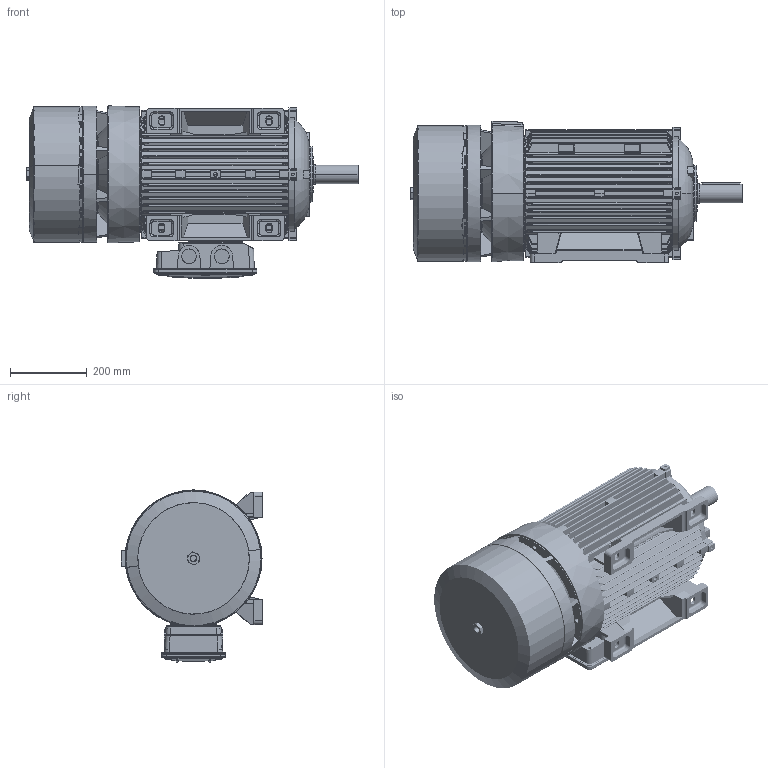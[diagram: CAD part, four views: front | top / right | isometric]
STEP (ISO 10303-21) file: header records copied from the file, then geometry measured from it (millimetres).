
FILE_DESCRIPTION (( 'STEP AP214' ), '1' );
FILE_NAME ('M02MA0011.STEP', '2019-05-07T06:55:44', ( '' ), ( '' ), 'SwSTEP 2.0', 'SolidWorks 2018', '' );
FILE_SCHEMA (( 'AUTOMOTIVE_DESIGN' ));
Length unit declared in the file: millimetre
Products named in the file (15): M02MA0011; Scatola Morsettiera Doppia BA 160 - 180 - 200 - Completa; Guarnizione Basetta BA 160-180 - 200 - D6BB0000; Vite Testa Bombata M6x20; Guarnizione Coperchio Sc. Mor. BA 160-180-200 - D6BA0100; Coperchio Scatola Morsettiera Doppia BA 160 - 180 - 200 - D6A60099; Scatola morsettiera 160; Chiavetta 180; Albero BA-CF 180 L; Scudo Lato Comando B3 BA 180; Vite a Testa Esagona 20 MB gr. 132-200 - DGAS0094; Cuffia serie BA 180-200; Convogliatore con pista di attrito BA 180-200 P2 - D7AR0298; Scudo Lato Freno BA 180-200 P1 - D7AG0198; Carcassa 180 B3
Assembly tree (19 placements, depth 3):
  M02MA0011
    Carcassa 180 B3
    Scudo Lato Freno BA 180-200 P1 - D7AG0198
    Convogliatore con pista di attrito BA 180-200 P2 - D7AR0298
    Cuffia serie BA 180-200
    Vite a Testa Esagona 20 MB gr. 132-200 - DGAS0094
    Scudo Lato Comando B3 BA 180
    Albero BA-CF 180 L
    Chiavetta 180
    Scatola Morsettiera Doppia BA 160 - 180 - 200 - Completa
      Scatola morsettiera 160
      Coperchio Scatola Morsettiera Doppia BA 160 - 180 - 200 - D6A60099
      Guarnizione Coperchio Sc. Mor. BA 160-180-200 - D6BA0100
      Vite Testa Bombata M6x20  x6
      Guarnizione Basetta BA 160-180 - 200 - D6BB0000
Bounding box: 862.5 x 368 x 447.46 mm (x, y, z)
Volume: 15049985.9 mm3; surface area: 3767388.2 mm2
Topology: 18 solids, 18 shells, 3831 faces, 10119 edges, 6153 vertices
Faces by surface type: cylinder 1402, plane 966, bspline 638, torus 411, cone 264, sphere 150
Entity records: 144506 total; most frequent: CARTESIAN_POINT 61546, ORIENTED_EDGE 17830, DIRECTION 16220, EDGE_CURVE 8915, AXIS2_PLACEMENT_3D 6470, VERTEX_POINT 5483, EDGE_LOOP 3760, CIRCLE 3544
